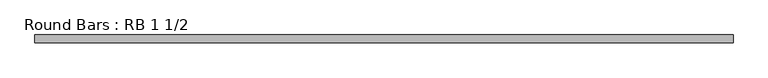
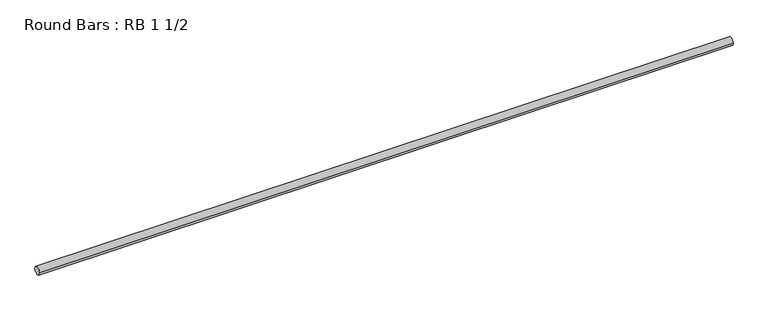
"""IFC4 building model written with IfcOpenShell, lengths in millimetres: member geometry, Round Bars : RB 1 1/2."""

from ifc_helpers import new_model, si_unit, point, frame, origin, origin_2d, place, context, project, spatial, circle_curve, trimmed, segment, composite_curve, outline, extrude, source, transform, mapped, element, save


def round_bars_rb_1_1_2_3d411ab3(model_context):
    return source(origin(), model_context, "Body", "SweptSolid", [
        extrude(outline(composite_curve([segment(trimmed(circle_curve(origin_2d(), 19.05), [point((19.05, 0.0))], [point((-19.05, 0.0))], False, "CARTESIAN"), True, "CONTINUOUS"), segment(trimmed(circle_curve(origin_2d(), 19.05), [point((-19.05, 0.0))], [point((19.05, 0.0))], False, "CARTESIAN"), True, "CONTINUOUS")], self_intersect=False)), frame((-1589.7463302, 0.0, 0.0), z_axis=(1.0, 0.0, 0.0), x_axis=(0.0, 1.0, 0.0)), (0.0, 0.0, 1.0), 3292.9299234),
    ])


if __name__ == "__main__":
    model = new_model("IFC4")
    model_context = context("Model", 3, world=origin())
    ifc_project = project(units=[si_unit("LENGTHUNIT", "METRE", prefix="MILLI")], contexts=[model_context])
    site = spatial("IfcSite", under=ifc_project)
    building = spatial("IfcBuilding", under=site)
    placement = place(None, origin())
    round_bars_rb_1_1_2_shape = round_bars_rb_1_1_2_3d411ab3(model_context)
    element("IfcMember", 1, ObjectType="Round Bars : RB 1 1/2", at=placement, inside=building, context=model_context, shape_type="MappedRepresentation", body=[
        mapped(round_bars_rb_1_1_2_shape, transform((0.0, 0.0, 0.0), x_axis=(1.0, 0.0, 0.0), y_axis=(0.0, 1.0, 0.0), z_axis=(0.0, 0.0, 1.0))),
    ])
    save(model, "model.ifc")
